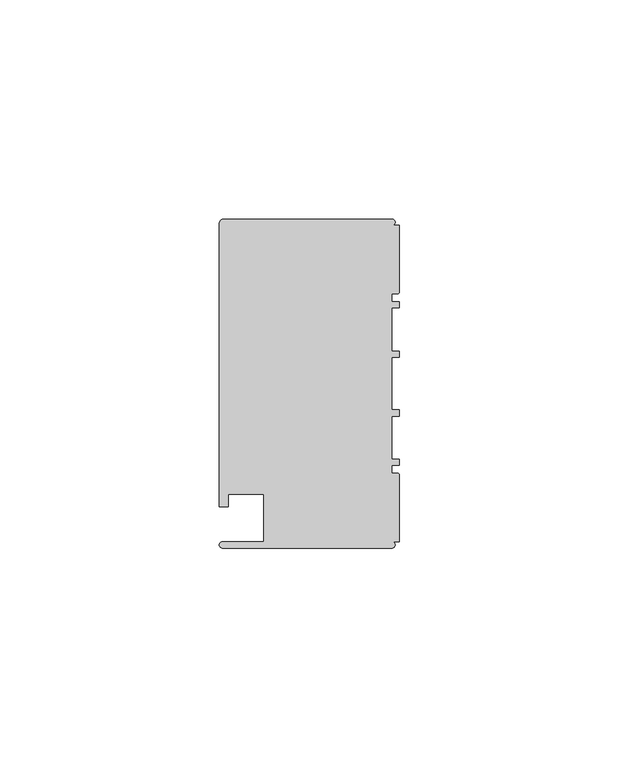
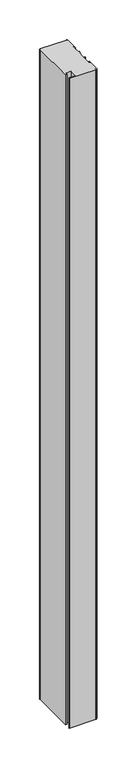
"""IFC4 building model written with IfcOpenShell, lengths in millimetres: member geometry, Прямоугольный импост : 1-AMG-1-Профиль 40Х75 Верх П."""

from ifc_helpers import new_model, si_unit, point, frame, frame_2d, origin, place, context, project, spatial, polyline, circle_curve, trimmed, segment, composite_curve, outline, extrude, source, transform, mapped, element, save


def member_3baaf4cd(model_context):
    return source(origin(), model_context, "Body", "SweptSolid", [
        extrude(outline(composite_curve([segment(polyline([(-1.7, -37.5), (-40.4, -37.5)]), True, "CONTINUOUS"), segment(trimmed(circle_curve(frame_2d((-40.4, -36.8)), 0.7), [point((-40.4, -37.5))], [point((-40.4, -36.1))], False, "CARTESIAN"), True, "CONTINUOUS"), segment(polyline([(-40.4, -36.1), (-31.0, -36.1), (-31.0, -25.25), (-39.0, -25.25), (-39.0, -28.1), (-41.1, -28.1), (-41.1, 36.1)]), True, "CONTINUOUS"), segment(trimmed(circle_curve(frame_2d((-39.7541527, 36.3020763)), 1.3609334), [point((-41.1, 36.1))], [point((-40.4, 37.5))], False, "CARTESIAN"), True, "CONTINUOUS"), segment(polyline([(-40.4, 37.5), (-1.7, 37.5)]), True, "CONTINUOUS"), segment(trimmed(circle_curve(frame_2d((-1.7, 36.8)), 0.7), [point((-1.7, 37.5))], [point((-1.7, 36.1))], False, "CARTESIAN"), True, "CONTINUOUS"), segment(polyline([(-1.7, 36.1), (0.0, 36.1), (0.0, 20.95)]), True, "CONTINUOUS"), segment(trimmed(circle_curve(frame_2d((-0.5, 20.95)), 0.5), [point((0.0, 20.95))], [point((-0.5, 20.45))], False, "CARTESIAN"), True, "CONTINUOUS"), segment(polyline([(-0.5, 20.45), (-1.8, 20.45), (-1.8, 18.65), (0.0, 18.65), (0.0, 17.25), (-1.8, 17.25), (-1.8, 7.4), (0.0, 7.4), (0.0, 6.0), (-1.8, 6.0), (-1.8, -6.0), (0.0, -6.0), (0.0, -7.4), (-1.8, -7.4), (-1.8, -17.25), (0.0, -17.25), (0.0, -18.65), (-1.8, -18.65), (-1.8, -20.45), (-0.5, -20.45)]), True, "CONTINUOUS"), segment(trimmed(circle_curve(frame_2d((-0.5, -20.95)), 0.5), [point((-0.5, -20.45))], [point((0.0, -20.95))], False, "CARTESIAN"), True, "CONTINUOUS"), segment(polyline([(0.0, -20.95), (0.0, -36.1), (-1.7, -36.1)]), True, "CONTINUOUS"), segment(trimmed(circle_curve(frame_2d((-1.7, -36.8)), 0.7), [point((-1.7, -36.1))], [point((-1.7, -37.5))], False, "CARTESIAN"), True, "CONTINUOUS")], self_intersect=False)), frame((0.0, 0.0, -1000.8479162), z_axis=(0.0, 0.0, 1.0), x_axis=(1.0, 0.0, 0.0)), (0.0, 0.0, 1.0), 1000.8479162),
    ])


if __name__ == "__main__":
    model = new_model("IFC4")
    model_context = context("Model", 3, world=origin())
    ifc_project = project(units=[si_unit("LENGTHUNIT", "METRE", prefix="MILLI")], contexts=[model_context])
    site = spatial("IfcSite", under=ifc_project)
    building = spatial("IfcBuilding", under=site)
    placement = place(None, origin())
    member_shape = member_3baaf4cd(model_context)
    element("IfcMember", 1, ObjectType="Прямоугольный импост : 1-AMG-1-Профиль 40Х75 Верх П", at=placement, inside=building, context=model_context, shape_type="MappedRepresentation", body=[
        mapped(member_shape, transform((0.0, 0.0, 0.0), x_axis=(1.0, 0.0, 0.0), y_axis=(0.0, 1.0, 0.0), z_axis=(0.0, 0.0, 1.0))),
    ])
    save(model, "model.ifc")
